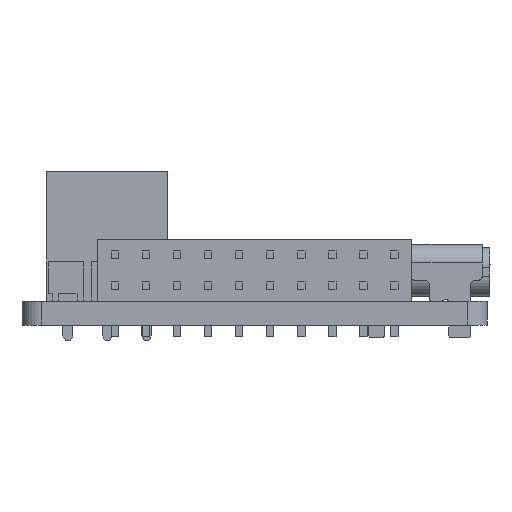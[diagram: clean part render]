
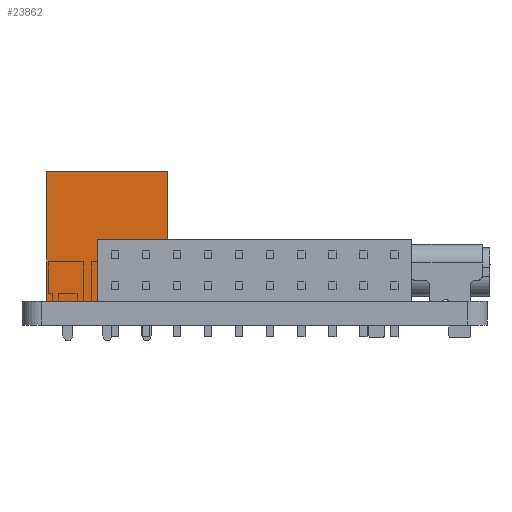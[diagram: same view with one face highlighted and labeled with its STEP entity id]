
A CAD part, left-side view. The second image highlights one B-rep face of the part: STEP entity #23862.
In plain terms, the highlighted planar face has unit normal (-1, 0, 0).
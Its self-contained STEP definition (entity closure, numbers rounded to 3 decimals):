
#23837 = VERTEX_POINT('',#23838);
#23838 = CARTESIAN_POINT('',(-1.375,-3.915,8.38));
#23844 = EDGE_CURVE('',#23845,#23837,#23847,.T.);
#23845 = VERTEX_POINT('',#23846);
#23846 = CARTESIAN_POINT('',(-1.375,-3.915,0.));
#23847 = LINE('',#23848,#23849);
#23848 = CARTESIAN_POINT('',(-1.375,-3.915,0.));
#23849 = VECTOR('',#23850,1.);
#23850 = DIRECTION('',(0.,0.,1.));
#23862 = ADVANCED_FACE('',(#23863),#23888,.T.);
#23863 = FACE_BOUND('',#23864,.T.);
#23864 = EDGE_LOOP('',(#23865,#23866,#23874,#23882));
#23865 = ORIENTED_EDGE('',*,*,#23844,.T.);
#23866 = ORIENTED_EDGE('',*,*,#23867,.T.);
#23867 = EDGE_CURVE('',#23837,#23868,#23870,.T.);
#23868 = VERTEX_POINT('',#23869);
#23869 = CARTESIAN_POINT('',(-1.375,3.915,8.38));
#23870 = LINE('',#23871,#23872);
#23871 = CARTESIAN_POINT('',(-1.375,-3.915,8.38));
#23872 = VECTOR('',#23873,1.);
#23873 = DIRECTION('',(0.,1.,0.));
#23874 = ORIENTED_EDGE('',*,*,#23875,.F.);
#23875 = EDGE_CURVE('',#23876,#23868,#23878,.T.);
#23876 = VERTEX_POINT('',#23877);
#23877 = CARTESIAN_POINT('',(-1.375,3.915,0.));
#23878 = LINE('',#23879,#23880);
#23879 = CARTESIAN_POINT('',(-1.375,3.915,0.));
#23880 = VECTOR('',#23881,1.);
#23881 = DIRECTION('',(0.,0.,1.));
#23882 = ORIENTED_EDGE('',*,*,#23883,.F.);
#23883 = EDGE_CURVE('',#23845,#23876,#23884,.T.);
#23884 = LINE('',#23885,#23886);
#23885 = CARTESIAN_POINT('',(-1.375,-3.915,0.));
#23886 = VECTOR('',#23887,1.);
#23887 = DIRECTION('',(0.,1.,0.));
#23888 = PLANE('',#23889);
#23889 = AXIS2_PLACEMENT_3D('',#23890,#23891,#23892);
#23890 = CARTESIAN_POINT('',(-1.375,-3.915,0.));
#23891 = DIRECTION('',(-1.,0.,0.));
#23892 = DIRECTION('',(0.,1.,0.));
